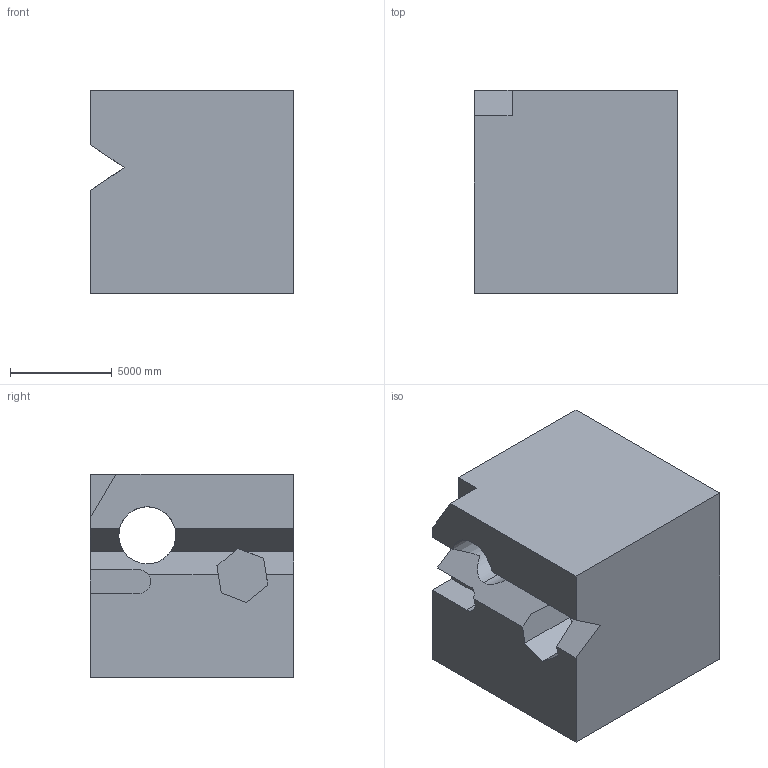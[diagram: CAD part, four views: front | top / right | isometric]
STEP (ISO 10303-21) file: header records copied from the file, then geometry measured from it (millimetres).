
FILE_DESCRIPTION (( 'STEP AP203' ), '1' );
FILE_NAME ('456.STEP', '2022-07-29T11:21:18', ( 'user' ), ( '' ), 'SwSTEP 2.0', 'SolidWorks 2021', '' );
FILE_SCHEMA (( 'CONFIG_CONTROL_DESIGN' ));
Length unit declared in the file: centimetre
Products named in the file (1): 456
Bounding box: 10000 x 10000 x 10000 mm (x, y, z)
Volume: 889436350949.7 mm3; surface area: 728661639.7 mm2
Topology: 1 solids, 1 shells, 26 faces, 75 edges, 50 vertices
Faces by surface type: plane 23, cylinder 3
Entity records: 926 total; most frequent: CARTESIAN_POINT 167, ORIENTED_EDGE 150, DIRECTION 130, EDGE_CURVE 75, LINE 64, VECTOR 64, VERTEX_POINT 50, AXIS2_PLACEMENT_3D 33
